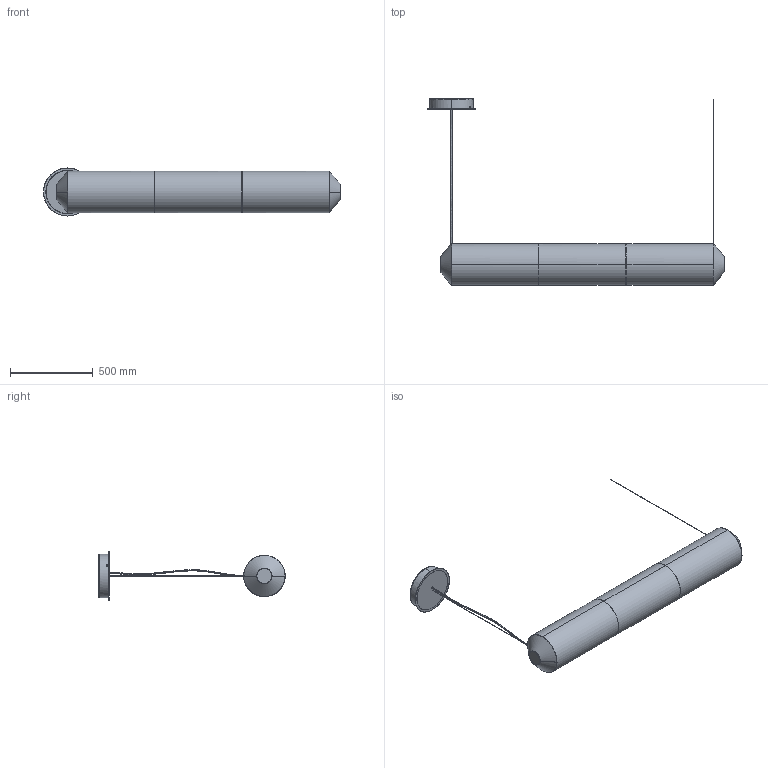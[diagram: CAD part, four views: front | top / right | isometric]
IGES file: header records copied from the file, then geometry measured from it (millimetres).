
Start section: SolidWorks IGES file using analytic representation for surfaces
Global section: file name: C:\SANTACOLE_PDM\Proyectos Catálogo\PROD-P16-018 -- TEKIO\6_Técnico comercial\3D\Tekio Horizntal\Tekio Horizontal P3\Tekio Horizontal P3.IGS; native system: SolidWorks 2019; preprocessor: SolidWorks 2019; author: aina.morell; date: 200407.101913; units: millimetre
Bounding box: 1793.31 x 1125.4 x 290 mm (x, y, z)
Surface area: 3107444.1 mm2 (no closed solid volume)
Topology: 0 solids, 0 shells, 148 faces, 3405 edges, 3405 vertices
Faces by surface type: bspline 144, revolution 4
